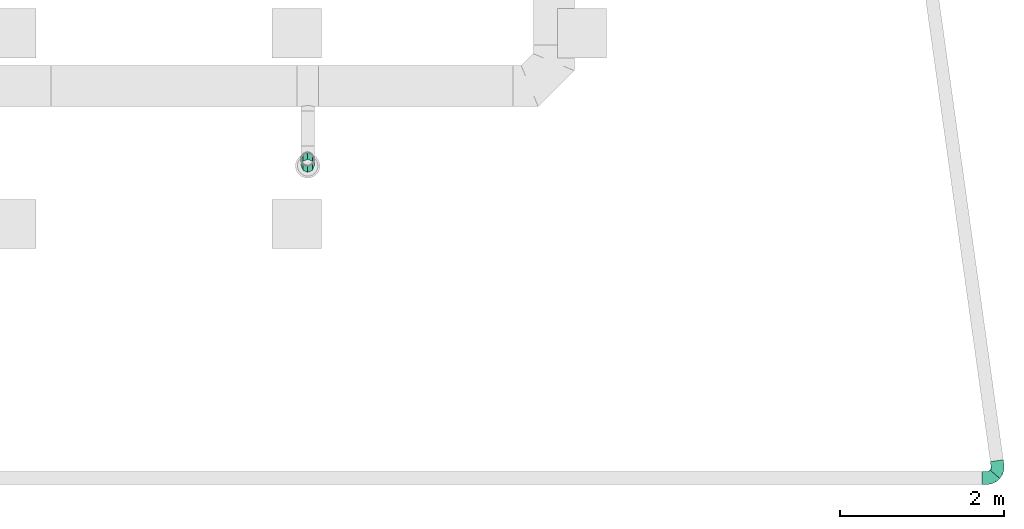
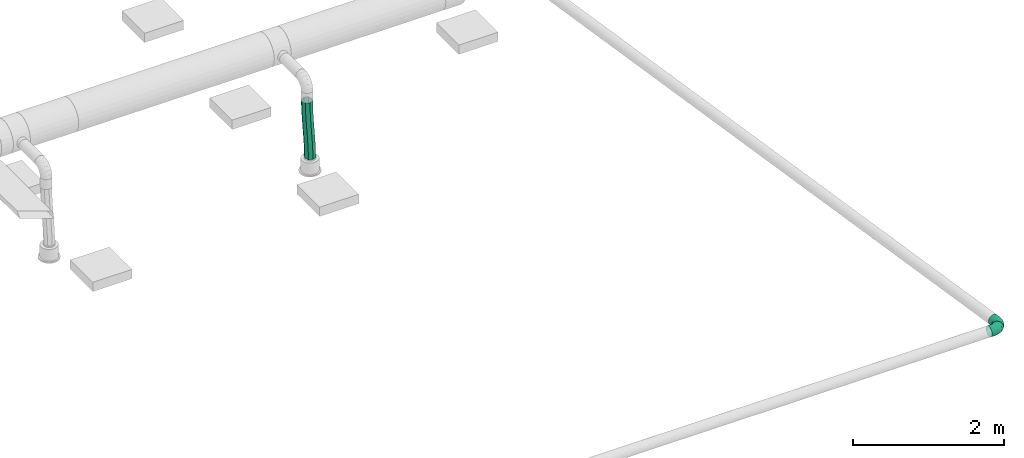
# One storey, part 323 of 374: 2 flow fittings, 1 flow segment.
"""IFC2X3 building model written with IfcOpenShell, lengths in metres."""

from ifc_helpers import new_model, si_unit, direction, origin, place, context, subcontext, project, spatial, open_shell, surface_model, source, transform, mapped, element, save


model = new_model("IFC2X3")

# Units and contexts
model_context = context("Model", 3, precision=1e-05, world=origin(), true_north=direction((-0.4480736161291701, 0.8939966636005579)))
body_context = subcontext(model_context, "Body", "Model", "MODEL_VIEW")
ifc_project = project(units=[si_unit("LENGTHUNIT", "METRE"), si_unit("AREAUNIT", "SQUARE_METRE"), si_unit("VOLUMEUNIT", "CUBIC_METRE"), si_unit("PLANEANGLEUNIT", "RADIAN"), si_unit("THERMODYNAMICTEMPERATUREUNIT", "KELVIN"), si_unit("MASSUNIT", "GRAM", prefix="KILO"), si_unit("TIMEUNIT", "SECOND")], contexts=[model_context])

# Site, building, storey
site_placement = place(None, origin())
site = spatial("IfcSite", under=ifc_project, at=site_placement, Name="Site 1", CompositionType="ELEMENT")
building_placement = place(site_placement, origin())
building = spatial("IfcBuilding", under=site, at=building_placement, Name="Undefined", CompositionType="ELEMENT")
storey_placement = place(building_placement, origin())
storey = spatial("IfcBuildingStorey", under=building, at=storey_placement, Name="Rez de chauss\x8ee", CompositionType="ELEMENT", Elevation=0.0)

# Flow fittings
shared_shape_1 = source(origin(), body_context, "Body", "SurfaceModel", [
    surface_model("IfcFaceBasedSurfaceModel", [(0.0, 0.020884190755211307, 0.0), (0.0, 0.0, 0.0), (0.06000000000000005, 8.8817842e-16, 0.0), (0.060000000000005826, 0.02088419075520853, 0.0), (0.0, -0.020172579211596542, -0.005405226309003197), (0.060000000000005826, -0.020172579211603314, -0.005405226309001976), (0.0, -0.03825881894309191, -0.015847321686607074), (0.060000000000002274, -0.03825881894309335, -0.015847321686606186), (0.0, -0.05302617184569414, -0.0306146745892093), (0.060000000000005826, -0.05302617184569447, -0.030614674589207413), (0.0, -0.06346826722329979, -0.04870091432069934), (0.060000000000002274, -0.06346826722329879, -0.04870091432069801), (0.0, -0.06887349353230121, -0.06887349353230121), (0.060000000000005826, -0.06887349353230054, -0.06887349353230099), (0.0, -0.06887349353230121, -0.08975768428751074), (0.060000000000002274, -0.06887349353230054, -0.08975768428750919), (0.0, -0.06346826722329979, -0.10993026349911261), (0.060000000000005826, -0.06346826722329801, -0.10993026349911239), (0.0, -0.05302617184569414, -0.12801650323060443), (0.060000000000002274, -0.05302617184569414, -0.12801650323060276), (0.0, -0.038258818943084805, -0.14278385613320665), (0.060000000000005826, -0.03825881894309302, -0.14278385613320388), (0.0, -0.020172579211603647, -0.15322595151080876), (0.060000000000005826, -0.020172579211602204, -0.15322595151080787), (0.0, 7.105427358e-15, -0.15863117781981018), (0.060000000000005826, 8.8817842e-16, -0.15863117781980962), (0.0, 0.020884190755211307, -0.15863117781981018), (0.060000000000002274, 0.020884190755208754, -0.1586311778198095), (0.0, 0.04105676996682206, -0.15322595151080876), (0.060000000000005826, 0.041056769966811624, -0.15322595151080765), (0.0, 0.05914300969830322, -0.1427838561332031), (0.060000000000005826, 0.05914300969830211, -0.14278385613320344), (0.0, 0.07391036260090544, -0.12801650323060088), (0.060000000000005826, 0.073910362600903, -0.12801650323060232), (0.0, 0.0843524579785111, -0.10993026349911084), (0.060000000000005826, 0.0843524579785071, -0.10993026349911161), (0.0, 0.08975768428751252, -0.08975768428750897), (0.060000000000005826, 0.08975768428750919, -0.08975768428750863), (0.0, 0.08975768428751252, -0.06887349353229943), (0.060000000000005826, 0.08975768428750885, -0.06887349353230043), (0.0, 0.0843524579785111, -0.048700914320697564), (0.060000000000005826, 0.08435245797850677, -0.04870091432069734), (0.0, 0.07391036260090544, -0.030614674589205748), (0.060000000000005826, 0.07391036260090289, -0.03061467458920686), (0.0, 0.05914300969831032, -0.015847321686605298), (0.060000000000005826, 0.05914300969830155, -0.015847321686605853), (0.0, 0.04105676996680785, -0.005405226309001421), (0.060000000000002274, 0.04105676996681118, -0.005405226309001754), (0.11916577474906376, -0.06045879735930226, -0.09086550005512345), (0.11993207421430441, -0.06034981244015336, -0.06999565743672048), (0.17355974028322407, -0.035893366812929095, -0.09409960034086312), (0.1750305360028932, -0.03546621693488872, -0.07327164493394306), (0.21879494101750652, 0.002841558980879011, -0.09919915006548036), (0.2208516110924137, 0.0037703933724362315, -0.07843724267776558), (0.11691909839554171, -0.05537309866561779, -0.11099601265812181), (0.16924758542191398, -0.031740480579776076, -0.11410730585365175), (0.21276508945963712, 0.005523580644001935, -0.11901321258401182), (0.11334515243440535, -0.04543929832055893, -0.12901533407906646), (0.1623879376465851, -0.023290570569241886, -0.13193126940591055), (0.20317298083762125, 0.011633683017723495, -0.13652913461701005), (0.1086874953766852, -0.03133436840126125, -0.14369547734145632), (0.1534482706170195, -0.011119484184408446, -0.14635681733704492), (0.19067230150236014, 0.02075547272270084, -0.1505532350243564), (0.10326353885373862, -0.014019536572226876, -0.1540360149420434), (0.14303780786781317, 0.003943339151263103, -0.1564008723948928), (0.17611495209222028, 0.03226731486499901, -0.16012979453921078), (0.097442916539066, 0.005325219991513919, -0.15933225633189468), (0.13186600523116, 0.020871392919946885, -0.1613789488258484), (0.1604929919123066, 0.045384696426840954, -0.16460618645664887), (0.09162229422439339, 0.025381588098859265, -0.15922327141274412), (0.12069420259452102, 0.03851105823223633, -0.16095179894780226), (0.14487103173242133, 0.059213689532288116, -0.163677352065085), (0.08619833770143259, 0.044782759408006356, -0.15371648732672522), (0.11028373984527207, 0.055660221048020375, -0.15514853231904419), (0.13031368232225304, 0.0728118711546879, -0.15740658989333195), (0.08154068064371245, 0.06220657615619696, -0.14318718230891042), (0.10134407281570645, 0.07115019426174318, -0.14436463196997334), (0.11781300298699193, 0.08525254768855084, -0.14622124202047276), (0.07796673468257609, 0.07646563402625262, -0.12835291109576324), (0.09448442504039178, 0.08392536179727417, -0.1293350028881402), (0.10822089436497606, 0.09568790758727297, -0.13088357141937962), (0.07572005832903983, 0.08658820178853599, -0.11022460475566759), (0.09017227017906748, 0.09311511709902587, -0.11108388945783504), (0.10219104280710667, 0.1034067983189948, -0.11243881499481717), (0.07495375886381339, 0.09188444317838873, -0.09003767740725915), (0.08870147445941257, 0.09809319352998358, -0.09085507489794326), (0.1001343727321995, 0.10788319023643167, -0.09214395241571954), (0.07572005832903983, 0.09199342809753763, -0.06916783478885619), (0.09017227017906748, 0.09852034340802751, -0.07002711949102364), (0.10219104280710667, 0.10881202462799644, -0.07138204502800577), (0.07796673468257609, 0.08690772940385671, -0.04903732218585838), (0.09448442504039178, 0.09436745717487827, -0.05001941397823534), (0.10822089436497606, 0.10613000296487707, -0.05156798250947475), (0.08154068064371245, 0.07697392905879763, -0.03101800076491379), (0.10134407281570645, 0.08591754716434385, -0.03219545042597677), (0.11781300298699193, 0.10001990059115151, -0.03405206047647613), (0.08619833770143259, 0.06286899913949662, -0.0163378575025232), (0.11028373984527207, 0.07374646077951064, -0.01776990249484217), (0.13031368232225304, 0.09089811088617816, -0.02002796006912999), (0.09162229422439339, 0.0455541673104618, -0.005997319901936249), (0.12069420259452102, 0.058683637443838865, -0.007725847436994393), (0.14487103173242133, 0.07938626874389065, -0.01045140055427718), (0.097442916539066, 0.026209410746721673, -0.0007010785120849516), (0.13186600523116, 0.04175558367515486, -0.002747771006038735), (0.1604929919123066, 0.06626888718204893, -0.005975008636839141), (0.10326353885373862, 0.006153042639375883, -0.0008100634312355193), (0.14303780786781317, 0.02411591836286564, -0.003174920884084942), (0.17611495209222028, 0.052439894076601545, -0.006903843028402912), (0.1086874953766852, -0.013248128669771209, -0.00631684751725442), (0.1534482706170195, 0.006966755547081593, -0.008978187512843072), (0.19067230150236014, 0.0388417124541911, -0.01317460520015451), (0.11334515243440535, -0.030671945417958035, -0.01684615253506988), (0.1623879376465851, -0.008523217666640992, -0.01976208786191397), (0.20317298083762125, 0.02640103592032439, -0.024359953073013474), (0.11691909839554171, -0.044931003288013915, -0.03168042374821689), (0.16924758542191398, -0.0212983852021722, -0.03479171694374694), (0.21276508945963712, 0.015965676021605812, -0.0396976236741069), (0.11916577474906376, -0.0550535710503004, -0.04980873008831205), (0.17355974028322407, -0.03048814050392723, -0.05304283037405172), (0.21879494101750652, 0.008246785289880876, -0.058142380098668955)], [open_shell([[[0, 1, 2, 3]], [[1, 4, 5, 2]], [[4, 6, 7, 5]], [[6, 8, 9, 7]], [[8, 10, 11, 9]], [[10, 12, 13, 11]], [[12, 14, 15, 13]], [[14, 16, 17, 15]], [[16, 18, 19, 17]], [[18, 20, 21, 19]], [[20, 22, 23, 21]], [[22, 24, 25, 23]], [[24, 26, 27, 25]], [[26, 28, 29, 27]], [[28, 30, 31, 29]], [[30, 32, 33, 31]], [[32, 34, 35, 33]], [[34, 36, 37, 35]], [[36, 38, 39, 37]], [[38, 40, 41, 39]], [[40, 42, 43, 41]], [[42, 44, 45, 43]], [[44, 46, 47, 45]], [[46, 0, 3, 47]], [[13, 15, 48, 49]], [[49, 48, 50, 51]], [[51, 50, 52, 53]], [[15, 17, 54, 48]], [[48, 54, 55, 50]], [[50, 55, 56, 52]], [[17, 19, 57, 54]], [[54, 57, 58, 55]], [[55, 58, 59, 56]], [[19, 21, 60, 57]], [[57, 60, 61, 58]], [[58, 61, 62, 59]], [[21, 23, 63, 60]], [[60, 63, 64, 61]], [[61, 64, 65, 62]], [[23, 25, 66, 63]], [[63, 66, 67, 64]], [[64, 67, 68, 65]], [[25, 27, 69, 66]], [[66, 69, 70, 67]], [[67, 70, 71, 68]], [[27, 29, 72, 69]], [[69, 72, 73, 70]], [[70, 73, 74, 71]], [[29, 31, 75, 72]], [[72, 75, 76, 73]], [[73, 76, 77, 74]], [[31, 33, 78, 75]], [[75, 78, 79, 76]], [[76, 79, 80, 77]], [[33, 35, 81, 78]], [[78, 81, 82, 79]], [[79, 82, 83, 80]], [[35, 37, 84, 81]], [[81, 84, 85, 82]], [[82, 85, 86, 83]], [[37, 39, 87, 84]], [[84, 87, 88, 85]], [[85, 88, 89, 86]], [[39, 41, 90, 87]], [[87, 90, 91, 88]], [[88, 91, 92, 89]], [[41, 43, 93, 90]], [[90, 93, 94, 91]], [[91, 94, 95, 92]], [[43, 45, 96, 93]], [[93, 96, 97, 94]], [[94, 97, 98, 95]], [[45, 47, 99, 96]], [[96, 99, 100, 97]], [[97, 100, 101, 98]], [[47, 3, 102, 99]], [[99, 102, 103, 100]], [[100, 103, 104, 101]], [[3, 2, 105, 102]], [[102, 105, 106, 103]], [[103, 106, 107, 104]], [[2, 5, 108, 105]], [[105, 108, 109, 106]], [[106, 109, 110, 107]], [[5, 7, 111, 108]], [[108, 111, 112, 109]], [[109, 112, 113, 110]], [[7, 9, 114, 111]], [[111, 114, 115, 112]], [[112, 115, 116, 113]], [[9, 11, 117, 114]], [[114, 117, 118, 115]], [[115, 118, 119, 116]], [[11, 13, 49, 117]], [[117, 49, 51, 118]], [[118, 51, 53, 119]]])]),
])
flow_fitting_1_placement = place(storey_placement, origin())
element("IfcFlowFitting", 1, at=flow_fitting_1_placement, inside=storey, Name="PE-HD coude 90° à grand rayon", ObjectType="PE-HD coude 90° à grand rayon", context=body_context, shape_type="MappedRepresentation", body=[
    mapped(shared_shape_1, transform((70.5076671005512, -1.946234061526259, -0.7163137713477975), x_axis=(1.0, 0.0, 0.0), y_axis=(0.0, 0.9914448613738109, 0.1305261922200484), z_axis=(0.0, -0.1305261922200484, 0.9914448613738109))),
])
shared_shape_2 = source(origin(), body_context, "Body", "SurfaceModel", [
    surface_model("IfcFaceBasedSurfaceModel", [(0.060545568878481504, 8.8817842e-16, 7.105427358e-15), (0.060158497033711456, 0.020880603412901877, 0.0), (0.0003870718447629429, 0.020880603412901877, 0.0), (0.0, 0.0, 0.0), (-0.0569740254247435, 0.02305193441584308, -0.016661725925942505), (-0.05810402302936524, 0.002199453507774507, -0.01687752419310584), (-0.10729853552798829, 0.02721947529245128, -0.04864138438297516), (-0.10908032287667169, 0.006420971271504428, -0.04927137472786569), (0.05902365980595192, 0.0410356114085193, -0.005351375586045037), (0.0015219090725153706, 0.0410356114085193, -0.005351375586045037), (-0.05366104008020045, 0.04312449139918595, -0.021380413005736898), (-0.10207459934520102, 0.047133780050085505, -0.05214572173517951), (0.057218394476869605, 0.059091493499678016, -0.015689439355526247), (0.0033271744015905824, 0.05909149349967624, -0.015689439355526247), (-0.048390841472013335, 0.06104921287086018, -0.03071201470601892), (-0.09376451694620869, 0.06480675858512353, -0.059545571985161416), (0.05486572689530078, 0.07381777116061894, -0.03030966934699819), (0.005679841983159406, 0.07381777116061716, -0.030309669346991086), (-0.04152258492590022, 0.0756045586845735, -0.04402059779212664), (-0.08293460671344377, 0.07903402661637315, -0.07033664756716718), (0.05212598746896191, 0.08421087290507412, -0.04821572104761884), (0.008419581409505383, 0.08421087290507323, -0.04821572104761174), (-0.03352433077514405, 0.08579860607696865, -0.06039920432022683), (-0.07032290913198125, 0.08884601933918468, -0.08378355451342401), (0.04918588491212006, 0.08956252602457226, -0.06818732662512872), (0.01135968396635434, 0.08956252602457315, -0.06818732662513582), (-0.024941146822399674, 0.09093664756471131, -0.0787316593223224), (-0.05678889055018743, 0.09357406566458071, -0.09896990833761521), (0.046245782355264, 0.0895080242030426, -0.08886345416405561), (0.014299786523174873, 0.08950802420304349, -0.08886345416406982), (-0.016357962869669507, 0.09066853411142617, -0.09776863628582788), (-0.04325487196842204, 0.09289595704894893, -0.11486078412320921), (0.043506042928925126, 0.08405108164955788, -0.10883505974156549), (0.017039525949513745, 0.08405108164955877, -0.10883505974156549), (-0.00835970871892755, 0.08501253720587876, -0.11621279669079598), (-0.030643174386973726, 0.086857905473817, -0.13037324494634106), (0.04115337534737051, 0.07356357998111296, -0.12674111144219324), (0.01939219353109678, 0.07356357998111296, -0.12674111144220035), (-0.0014914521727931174, 0.07435410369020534, -0.1328072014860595), (-0.019813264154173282, 0.07587139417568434, -0.14445014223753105), (0.039348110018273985, 0.0587602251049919, -0.14136134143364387), (0.02119745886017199, 0.05876022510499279, -0.14136134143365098), (0.003778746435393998, 0.05941958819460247, -0.14642096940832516), (-0.011503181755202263, 0.06068513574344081, -0.15613215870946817), (0.03821327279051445, 0.0406498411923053, -0.15169940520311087), (0.02233229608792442, 0.04064984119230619, -0.15169940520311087), (0.007091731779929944, 0.04122675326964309, -0.15612634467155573), (-0.006279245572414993, 0.04233404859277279, -0.16462318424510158), (0.037826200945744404, 0.02046662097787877, -0.1570507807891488), (0.022719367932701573, 0.020466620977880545, -0.1570507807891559), (0.008221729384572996, 0.02101541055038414, -0.16126192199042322), (-0.004497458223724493, 0.02206872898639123, -0.16934456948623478), (0.03821327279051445, -0.00041398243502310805, -0.1570507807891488), (0.02233229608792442, -0.0004139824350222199, -0.1570507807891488), (0.007091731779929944, 0.00016292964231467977, -0.16147772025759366), (-0.006279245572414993, 0.0012702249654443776, -0.16997455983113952), (0.039348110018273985, -0.020568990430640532, -0.15169940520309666), (0.02119745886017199, -0.020568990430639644, -0.15169940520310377), (0.003778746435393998, -0.019909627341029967, -0.15675903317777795), (-0.011503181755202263, -0.018644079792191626, -0.16647022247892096), (0.04115337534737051, -0.03862487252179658, -0.14136134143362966), (0.01939219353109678, -0.038624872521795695, -0.14136134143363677), (-0.0014914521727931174, -0.03783434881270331, -0.14742743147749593), (-0.019813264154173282, -0.036317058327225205, -0.15907037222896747), (0.043506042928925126, -0.05335115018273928, -0.1267411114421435), (0.017039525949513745, -0.053351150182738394, -0.1267411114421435), (-0.00835970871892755, -0.052389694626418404, -0.134118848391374), (-0.030643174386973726, -0.05054432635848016, -0.14827929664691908), (0.046245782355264, -0.06374425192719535, -0.10883505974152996), (0.014299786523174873, -0.06374425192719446, -0.10883505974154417), (-0.016357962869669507, -0.06258374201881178, -0.11774024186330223), (-0.04325487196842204, -0.06035631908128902, -0.13483238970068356), (0.04918588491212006, -0.06909590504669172, -0.08886345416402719), (0.01135968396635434, -0.06909590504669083, -0.0888634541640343), (-0.024941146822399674, -0.06772178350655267, -0.09940778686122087), (-0.05678889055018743, -0.06508436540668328, -0.11964603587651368), (0.05212598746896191, -0.06904140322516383, -0.06818732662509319), (0.008419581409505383, -0.06904140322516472, -0.06818732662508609), (-0.03352433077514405, -0.0674536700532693, -0.08037080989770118), (-0.07032290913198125, -0.06440625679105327, -0.10375516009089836), (0.05486572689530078, -0.06358446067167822, -0.04821572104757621), (0.005679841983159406, -0.06358446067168, -0.048215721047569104), (-0.04152258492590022, -0.061797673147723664, -0.061926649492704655), (-0.08293460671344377, -0.05836820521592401, -0.0882426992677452), (0.057218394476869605, -0.053096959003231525, -0.030309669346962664), (0.0033271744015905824, -0.05309695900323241, -0.030309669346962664), (-0.048390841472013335, -0.05113923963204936, -0.04533224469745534), (-0.09376451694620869, -0.047381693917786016, -0.07416580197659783), (0.05902365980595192, -0.038293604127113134, -0.015689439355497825), (0.0015219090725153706, -0.038293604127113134, -0.015689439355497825), (-0.05366104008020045, -0.03620472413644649, -0.031718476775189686), (-0.10207459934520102, -0.03219543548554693, -0.062483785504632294), (0.060158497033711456, -0.020183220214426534, -0.005351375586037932), (0.0003870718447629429, -0.020183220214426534, -0.005351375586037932), (-0.0569740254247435, -0.018011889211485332, -0.022013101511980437), (-0.10729853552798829, -0.013844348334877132, -0.05399275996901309), (-0.15270672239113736, 0.03228752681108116, -0.08753111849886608), (-0.15448850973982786, 0.011489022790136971, -0.08816110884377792), (-0.1474827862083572, 0.05220183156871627, -0.09103545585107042), (-0.13917270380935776, 0.06987481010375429, -0.09843530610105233), (-0.12834279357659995, 0.08410207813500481, -0.1092263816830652), (-0.11573109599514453, 0.09391407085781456, -0.12267328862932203), (-0.10219707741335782, 0.0986421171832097, -0.13785964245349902), (-0.08866305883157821, 0.09796400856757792, -0.15375051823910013), (-0.0760513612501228, 0.09192595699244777, -0.1692629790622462), (-0.06522145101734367, 0.08093944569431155, -0.18333987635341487), (-0.05691136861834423, 0.06575318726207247, -0.1950218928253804), (-0.05168743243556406, 0.047402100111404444, -0.2035129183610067), (-0.04990564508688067, 0.027136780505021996, -0.2082343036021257), (-0.05168743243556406, 0.006338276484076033, -0.20886429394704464), (-0.05691136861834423, -0.01357602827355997, -0.2053599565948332), (-0.06522145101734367, -0.031249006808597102, -0.19796010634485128), (-0.0760513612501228, -0.045476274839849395, -0.1871690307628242), (-0.08866305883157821, -0.05528826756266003, -0.17372212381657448), (-0.10219707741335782, -0.060016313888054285, -0.1585357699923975), (-0.11573109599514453, -0.059338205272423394, -0.14264489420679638), (-0.12834279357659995, -0.05330015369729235, -0.12713243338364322), (-0.13917270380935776, -0.04231364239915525, -0.11305553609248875), (-0.1474827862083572, -0.027127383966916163, -0.10137351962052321), (-0.15270672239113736, -0.008776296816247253, -0.09288249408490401)], [open_shell([[[0, 1, 2, 3]], [[3, 2, 4, 5]], [[5, 4, 6, 7]], [[1, 8, 9, 2]], [[2, 9, 10, 4]], [[4, 10, 11, 6]], [[8, 12, 13, 9]], [[9, 13, 14, 10]], [[10, 14, 15, 11]], [[12, 16, 17, 13]], [[13, 17, 18, 14]], [[14, 18, 19, 15]], [[16, 20, 21, 17]], [[17, 21, 22, 18]], [[18, 22, 23, 19]], [[20, 24, 25, 21]], [[21, 25, 26, 22]], [[22, 26, 27, 23]], [[24, 28, 29, 25]], [[25, 29, 30, 26]], [[26, 30, 31, 27]], [[28, 32, 33, 29]], [[29, 33, 34, 30]], [[30, 34, 35, 31]], [[32, 36, 37, 33]], [[33, 37, 38, 34]], [[34, 38, 39, 35]], [[36, 40, 41, 37]], [[37, 41, 42, 38]], [[38, 42, 43, 39]], [[40, 44, 45, 41]], [[41, 45, 46, 42]], [[42, 46, 47, 43]], [[44, 48, 49, 45]], [[45, 49, 50, 46]], [[46, 50, 51, 47]], [[48, 52, 53, 49]], [[49, 53, 54, 50]], [[50, 54, 55, 51]], [[52, 56, 57, 53]], [[53, 57, 58, 54]], [[54, 58, 59, 55]], [[56, 60, 61, 57]], [[57, 61, 62, 58]], [[58, 62, 63, 59]], [[60, 64, 65, 61]], [[61, 65, 66, 62]], [[62, 66, 67, 63]], [[64, 68, 69, 65]], [[65, 69, 70, 66]], [[66, 70, 71, 67]], [[68, 72, 73, 69]], [[69, 73, 74, 70]], [[70, 74, 75, 71]], [[72, 76, 77, 73]], [[73, 77, 78, 74]], [[74, 78, 79, 75]], [[76, 80, 81, 77]], [[77, 81, 82, 78]], [[78, 82, 83, 79]], [[80, 84, 85, 81]], [[81, 85, 86, 82]], [[82, 86, 87, 83]], [[84, 88, 89, 85]], [[85, 89, 90, 86]], [[86, 90, 91, 87]], [[88, 92, 93, 89]], [[89, 93, 94, 90]], [[90, 94, 95, 91]], [[92, 0, 3, 93]], [[93, 3, 5, 94]], [[94, 5, 7, 95]], [[7, 6, 96, 97]], [[6, 11, 98, 96]], [[11, 15, 99, 98]], [[15, 19, 100, 99]], [[19, 23, 101, 100]], [[23, 27, 102, 101]], [[27, 31, 103, 102]], [[31, 35, 104, 103]], [[35, 39, 105, 104]], [[39, 43, 106, 105]], [[43, 47, 107, 106]], [[47, 51, 108, 107]], [[51, 55, 109, 108]], [[55, 59, 110, 109]], [[59, 63, 111, 110]], [[63, 67, 112, 111]], [[67, 71, 113, 112]], [[71, 75, 114, 113]], [[75, 79, 115, 114]], [[79, 83, 116, 115]], [[83, 87, 117, 116]], [[87, 91, 118, 117]], [[91, 95, 119, 118]], [[95, 7, 97, 119]]])]),
])
flow_fitting_2_placement = place(storey_placement, origin())
element("IfcFlowFitting", 2, at=flow_fitting_2_placement, inside=storey, Name="PE-HD coude 90° à grand rayon", ObjectType="PE-HD coude 90° à grand rayon", context=body_context, shape_type="MappedRepresentation", body=[
    mapped(shared_shape_2, transform((70.761366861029, -1.8813975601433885, -0.793587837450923), x_axis=(-0.5425359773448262, -0.8400325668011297, 0.0), y_axis=(-0.10855387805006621, 0.07010964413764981, -0.9916151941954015), z_axis=(0.8329890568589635, -0.5379869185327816, -0.1292257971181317))),
])

# Flow segment
shared_shape_3 = source(origin(), body_context, "Body", "SurfaceModel", [
    surface_model("IfcFaceBasedSurfaceModel", [(0.09591138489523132, -3.552713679e-15, 7.105427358e-15), (0.05777896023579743, 0.04790565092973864, -7.105427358e-15), (0.0, 0.0, 0.0), (0.039908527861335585, -0.046436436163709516, -1.0803108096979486e-06), (-0.05576709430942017, -0.04966194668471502, -0.001092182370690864), (-0.014403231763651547, -0.09480686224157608, -0.0010661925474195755), (-0.1098270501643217, -0.10061373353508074, -0.0030471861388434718), (-0.06736211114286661, -0.1447244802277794, -0.0029825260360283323), (-0.16253987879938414, -0.15244487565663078, -0.005638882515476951), (-0.1193063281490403, -0.19580249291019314, -0.005537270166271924), (-0.21426131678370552, -0.20475370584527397, -0.008645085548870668), (-0.17057410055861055, -0.24765410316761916, -0.00851761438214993), (-0.26534080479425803, -0.2571453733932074, -0.011847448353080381), (-0.2215036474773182, -0.29989251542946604, -0.011710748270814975), (-0.31612041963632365, -0.30923055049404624, -0.015031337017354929), (-0.27243319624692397, -0.35213094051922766, -0.01490386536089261), (-0.3669345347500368, -0.36062497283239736, -0.01798578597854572), (-0.32370097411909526, -0.4039825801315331, -0.017884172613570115), (-0.4181101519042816, -0.4109498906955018, -0.020503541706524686), (-0.37564520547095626, -0.4550606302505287, -0.02043888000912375), (-0.4699679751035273, -0.4598333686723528, -0.022381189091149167), (-0.4286041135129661, -0.5049782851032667, -0.022355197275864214), (-0.5228244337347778, -0.5069122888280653, -0.023419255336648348), (-0.48291592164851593, -0.5533487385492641, -0.023420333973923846), (-0.5770512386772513, -0.5518795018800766, -0.02342149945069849), (-0.5389188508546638, -0.599785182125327, -0.023421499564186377), (0.030535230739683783, 0.08155715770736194, -0.04329420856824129), (-0.02797941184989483, 0.03304294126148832, -0.043293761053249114), (-0.0843493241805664, -0.01715396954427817, -0.04439715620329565), (-0.1388653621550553, -0.06853412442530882, -0.04636817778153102), (-0.19189656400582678, -0.12067722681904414, -0.04897518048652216), (-0.24380592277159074, -0.17317545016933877, -0.05199209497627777), (-0.29494752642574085, -0.22563060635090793, -0.05519828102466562), (-0.34566504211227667, -0.2776523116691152, -0.05837834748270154), (-0.39629124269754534, -0.3288573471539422, -0.0613220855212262), (-0.4471484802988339, -0.37887029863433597, -0.06382453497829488), (-0.49855020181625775, -0.4273253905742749, -0.06568616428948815), (-0.5508038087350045, -0.4738693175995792, -0.066713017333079), (-0.604294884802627, -0.5182279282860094, -0.06671570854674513), (0.030139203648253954, 0.08124192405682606, -0.10452146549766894), (-0.027639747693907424, 0.033336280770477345, -0.10452146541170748), (-0.08340683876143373, -0.016325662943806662, -0.10561364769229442), (-0.13746679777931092, -0.06727745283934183, -0.1075686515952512), (-0.1901796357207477, -0.11910860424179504, -0.1101603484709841), (-0.241901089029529, -0.17141745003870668, -0.11316655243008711), (-0.2929805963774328, -0.22380913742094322, -0.11636891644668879), (-0.34376022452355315, -0.275894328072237, -0.1195528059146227), (-0.39457433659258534, -0.3272887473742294, -0.12250725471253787), (-0.445749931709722, -0.37761364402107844, -0.12502500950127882), (-0.4976077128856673, -0.4264970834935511, -0.12690265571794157), (-0.5504641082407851, -0.47357594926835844, -0.1279407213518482), (-0.6046908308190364, -0.5185430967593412, -0.1279429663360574), (0.05682286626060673, 0.047144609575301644, -0.14781567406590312), (0.0008200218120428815, 0.0007081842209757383, -0.14781675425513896), (-0.053491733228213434, -0.047662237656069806, -0.1488818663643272), (-0.10645061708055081, -0.09757985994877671, -0.1507982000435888), (-0.15839484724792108, -0.14865788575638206, -0.15335294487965), (-0.20966264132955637, -0.20050951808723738, -0.1563332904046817), (-0.26059221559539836, -0.2527479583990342, -0.1595264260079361), (-0.31152178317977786, -0.3049864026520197, -0.16271954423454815), (-0.36278955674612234, -0.3568380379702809, -0.16569985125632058), (-0.4147337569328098, -0.40791605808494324, -0.16825455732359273), (-0.46769260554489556, -0.45783365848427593, -0.17017087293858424), (-0.522004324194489, -0.5062040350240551, -0.1712360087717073), (-0.5780071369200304, -0.5526403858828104, -0.1712371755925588), (0.09495529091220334, -0.0007610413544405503, -0.14781567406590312), (0.04072854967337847, -0.045728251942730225, -0.14781783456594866), (-0.012127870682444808, -0.09280715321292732, -0.14885587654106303), (-0.06398567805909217, -0.14169060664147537, -0.15073353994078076), (-0.11516129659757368, -0.19201550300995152, -0.15325133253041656), (-0.16597542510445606, -0.24340991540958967, -0.15620581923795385), (-0.21675505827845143, -0.29549510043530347, -0.15938972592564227), (-0.2678345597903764, -0.3478867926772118, -0.16259207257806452), (-0.31955599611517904, -0.40019564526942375, -0.16559823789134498), (-0.37226881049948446, -0.45202679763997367, -0.1681898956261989), (-0.4263287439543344, -0.5029785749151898, -0.1701448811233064), (-0.4820958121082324, -0.552640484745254, -0.1712370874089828), (-0.5398747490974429, -0.6005460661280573, -0.17123717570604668), (0.12219902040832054, -0.0344125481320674, -0.10452146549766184), (0.0687079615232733, -0.0787711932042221, -0.10452407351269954), (0.01645435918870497, -0.12531513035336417, -0.10555090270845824), (-0.03494736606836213, -0.1737702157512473, -0.10741254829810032), (-0.08580461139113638, -0.22378315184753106, -0.10991503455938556), (-0.1364308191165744, -0.2749881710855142, -0.11285880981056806), (-0.18714833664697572, -0.32700986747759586, -0.11603889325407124), (-0.2382899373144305, -0.37946503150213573, -0.11924506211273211), (-0.29019928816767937, -0.43196327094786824, -0.12226193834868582), (-0.3432304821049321, -0.4841063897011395, -0.12486890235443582), (-0.3977465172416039, -0.5354865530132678, -0.1268399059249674), (-0.4541164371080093, -0.585683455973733, -0.12794332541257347), (-0.5126311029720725, -0.6341976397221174, -0.12794296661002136), (0.12259504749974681, -0.034097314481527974, -0.04329420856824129), (0.06836829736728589, -0.07906453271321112, -0.04329636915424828), (0.015511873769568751, -0.12614343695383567, -0.04433441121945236), (-0.036345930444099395, -0.17502688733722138, -0.04621207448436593), (-0.08752153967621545, -0.22535177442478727, -0.048729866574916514), (-0.13833565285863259, -0.2767461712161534, -0.05168435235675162), (-0.18911526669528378, -0.32883133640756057, -0.05486825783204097), (-0.24019475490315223, -0.38122301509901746, -0.058070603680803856), (-0.2919161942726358, -0.43353187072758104, -0.06107676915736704), (-0.3446290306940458, -0.48536304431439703, -0.06366842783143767), (-0.39868900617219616, -0.5363148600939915, -0.06562341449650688), (-0.45445613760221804, -0.5859768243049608, -0.06671562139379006), (-0.5122351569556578, -0.6338824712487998, -0.06671570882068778)], [open_shell([[[0, 1, 2]], [[2, 3, 0]], [[3, 2, 4]], [[4, 5, 3]], [[5, 4, 6]], [[6, 7, 5]], [[7, 6, 8]], [[8, 9, 7]], [[9, 8, 10]], [[10, 11, 9]], [[11, 10, 12]], [[12, 13, 11]], [[13, 12, 14]], [[14, 15, 13]], [[15, 14, 16]], [[16, 17, 15]], [[17, 16, 18]], [[18, 19, 17]], [[19, 18, 20]], [[20, 21, 19]], [[21, 20, 22]], [[22, 23, 21]], [[23, 22, 24]], [[24, 25, 23]], [[1, 26, 27]], [[27, 2, 1]], [[2, 27, 28]], [[28, 4, 2]], [[4, 28, 29]], [[29, 6, 4]], [[6, 29, 30]], [[30, 8, 6]], [[8, 30, 31]], [[31, 10, 8]], [[10, 31, 32]], [[32, 12, 10]], [[12, 32, 33]], [[33, 14, 12]], [[14, 33, 34]], [[34, 16, 14]], [[16, 34, 35]], [[35, 18, 16]], [[18, 35, 36]], [[36, 20, 18]], [[20, 36, 37]], [[37, 22, 20]], [[22, 37, 38]], [[38, 24, 22]], [[26, 39, 40]], [[40, 27, 26]], [[27, 40, 41]], [[41, 28, 27]], [[28, 41, 42]], [[42, 29, 28]], [[29, 42, 43]], [[43, 30, 29]], [[30, 43, 44]], [[44, 31, 30]], [[31, 44, 45]], [[45, 32, 31]], [[32, 45, 46]], [[46, 33, 32]], [[33, 46, 47]], [[47, 34, 33]], [[34, 47, 48]], [[48, 35, 34]], [[35, 48, 49]], [[49, 36, 35]], [[36, 49, 50]], [[50, 37, 36]], [[37, 50, 51]], [[51, 38, 37]], [[39, 52, 53]], [[53, 40, 39]], [[40, 53, 54]], [[54, 41, 40]], [[41, 54, 55]], [[55, 42, 41]], [[42, 55, 56]], [[56, 43, 42]], [[43, 56, 57]], [[57, 44, 43]], [[44, 57, 58]], [[58, 45, 44]], [[45, 58, 59]], [[59, 46, 45]], [[46, 59, 60]], [[60, 47, 46]], [[47, 60, 61]], [[61, 48, 47]], [[48, 61, 62]], [[62, 49, 48]], [[49, 62, 63]], [[63, 50, 49]], [[50, 63, 64]], [[64, 51, 50]], [[52, 65, 66]], [[66, 53, 52]], [[53, 66, 67]], [[67, 54, 53]], [[54, 67, 68]], [[68, 55, 54]], [[55, 68, 69]], [[69, 56, 55]], [[56, 69, 70]], [[70, 57, 56]], [[57, 70, 71]], [[71, 58, 57]], [[58, 71, 72]], [[72, 59, 58]], [[59, 72, 73]], [[73, 60, 59]], [[60, 73, 74]], [[74, 61, 60]], [[61, 74, 75]], [[75, 62, 61]], [[62, 75, 76]], [[76, 63, 62]], [[63, 76, 77]], [[77, 64, 63]], [[65, 78, 79]], [[79, 66, 65]], [[66, 79, 80]], [[80, 67, 66]], [[67, 80, 81]], [[81, 68, 67]], [[68, 81, 82]], [[82, 69, 68]], [[69, 82, 83]], [[83, 70, 69]], [[70, 83, 84]], [[84, 71, 70]], [[71, 84, 85]], [[85, 72, 71]], [[72, 85, 86]], [[86, 73, 72]], [[73, 86, 87]], [[87, 74, 73]], [[74, 87, 88]], [[88, 75, 74]], [[75, 88, 89]], [[89, 76, 75]], [[76, 89, 90]], [[90, 77, 76]], [[78, 91, 92]], [[92, 79, 78]], [[79, 92, 93]], [[93, 80, 79]], [[80, 93, 94]], [[94, 81, 80]], [[81, 94, 95]], [[95, 82, 81]], [[82, 95, 96]], [[96, 83, 82]], [[83, 96, 97]], [[97, 84, 83]], [[84, 97, 98]], [[98, 85, 84]], [[85, 98, 99]], [[99, 86, 85]], [[86, 99, 100]], [[100, 87, 86]], [[87, 100, 101]], [[101, 88, 87]], [[88, 101, 102]], [[102, 89, 88]], [[89, 102, 103]], [[103, 90, 89]], [[91, 0, 3]], [[3, 92, 91]], [[92, 3, 5]], [[5, 93, 92]], [[93, 5, 7]], [[7, 94, 93]], [[94, 7, 9]], [[9, 95, 94]], [[95, 9, 11]], [[11, 96, 95]], [[96, 11, 13]], [[13, 97, 96]], [[97, 13, 15]], [[15, 98, 97]], [[98, 15, 17]], [[17, 99, 98]], [[99, 17, 19]], [[19, 100, 99]], [[100, 19, 21]], [[21, 101, 100]], [[101, 21, 23]], [[23, 102, 101]], [[102, 23, 25]], [[25, 103, 102]]])]),
])
flow_segment_placement = place(storey_placement, origin())
element("IfcFlowSegment", 3, at=flow_segment_placement, inside=storey, Name="Tube flexible", ObjectType="Tube flexible", context=body_context, shape_type="MappedRepresentation", body=[
    mapped(shared_shape_3, transform((62.23343302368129, 2.0149472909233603, 3.4049617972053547), x_axis=(-0.24430324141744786, -0.5728986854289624, 0.7823701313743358), y_axis=(0.29465380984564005, 0.7248106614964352, 0.622758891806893), z_axis=(-0.9238479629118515, 0.3826703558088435, -0.00826681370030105))),
])

save(model, "model.ifc")
